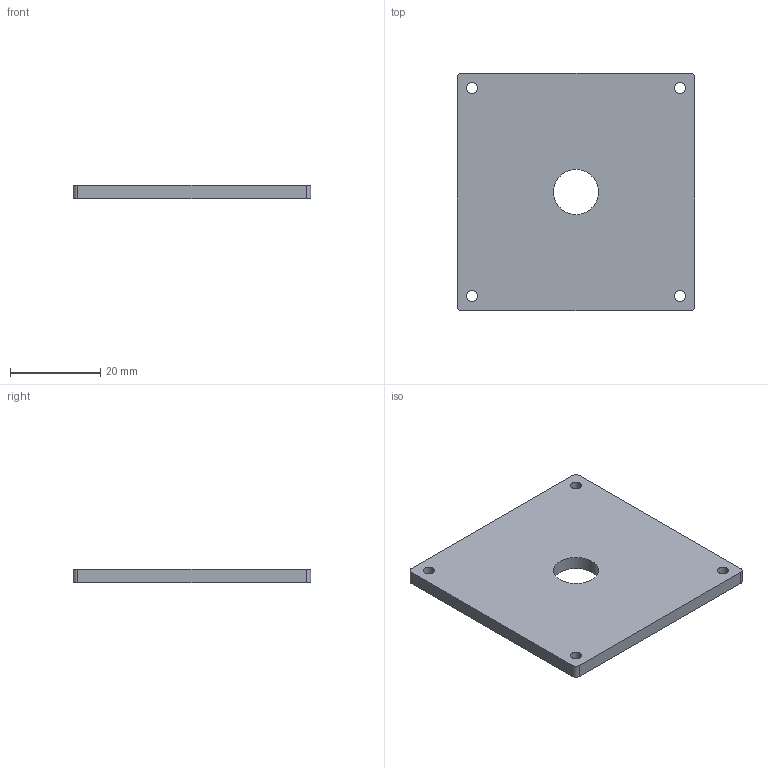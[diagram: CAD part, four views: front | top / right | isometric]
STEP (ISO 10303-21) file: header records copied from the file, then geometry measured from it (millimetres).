
FILE_DESCRIPTION (( 'STEP AP214' ), '1' );
FILE_NAME ('LSQ-45-050-1-DIFFUSER.STEP', '2021-11-05T01:44:54', ( '' ), ( '' ), 'SwSTEP 2.0', 'SolidWorks 2021', '' );
FILE_SCHEMA (( 'AUTOMOTIVE_DESIGN' ));
Length unit declared in the file: millimetre
Products named in the file (1): LSQ-45-050-1-DIFFUSER
Bounding box: 52.5 x 52.5 x 3 mm (x, y, z)
Volume: 7971.7 mm3; surface area: 6127.8 mm2
Topology: 1 solids, 1 shells, 20 faces, 54 edges, 36 vertices
Faces by surface type: cylinder 14, plane 6
Entity records: 700 total; most frequent: DIRECTION 124, CARTESIAN_POINT 111, ORIENTED_EDGE 108, EDGE_CURVE 54, AXIS2_PLACEMENT_3D 49, VERTEX_POINT 36, EDGE_LOOP 30, CIRCLE 28
